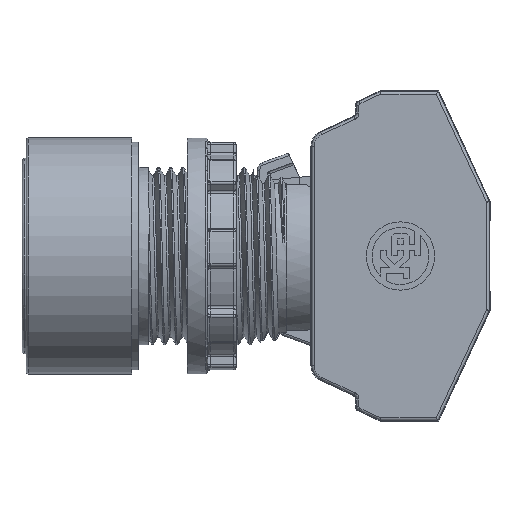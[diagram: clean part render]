
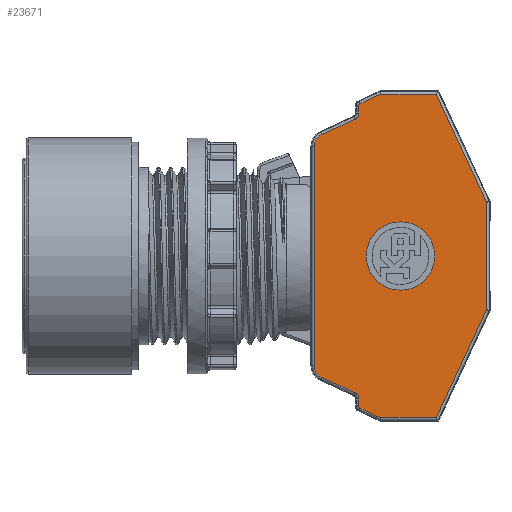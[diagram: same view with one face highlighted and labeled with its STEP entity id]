
A CAD part, front view. The second image highlights one B-rep face of the part: STEP entity #23671.
In plain terms, the highlighted planar face has unit normal (0, -1, 0) as drawn and (0, 0, 1) by its records, which use the part's own axes.
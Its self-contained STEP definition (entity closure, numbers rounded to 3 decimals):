
#18730=CARTESIAN_POINT('',(37.2,0.,14.8));
#18731=VERTEX_POINT('',#18730);
#18732=CARTESIAN_POINT('',(33.0,0.,14.8));
#18733=DIRECTION('',(0.0,0.0,-1.0));
#18734=DIRECTION('',(-1.0,0.0,0.0));
#18735=AXIS2_PLACEMENT_3D('',#18732,#18733,#18734);
#18736=CIRCLE('',#18735,4.2);
#18737=EDGE_CURVE('',#18731,#18731,#18736,.T.);
#22856=CARTESIAN_POINT('',(27.9,18.519,14.8));
#22857=VERTEX_POINT('',#22856);
#22865=CARTESIAN_POINT('',(28.015,18.7,14.8));
#22866=VERTEX_POINT('',#22865);
#22867=CARTESIAN_POINT('',(28.1,18.519,14.8));
#22868=DIRECTION('',(0.,0.,-1.0));
#22869=DIRECTION('',(-0.843,0.537,0.));
#22870=AXIS2_PLACEMENT_3D('',#22867,#22868,#22869);
#22871=CIRCLE('',#22870,0.2);
#22872=EDGE_CURVE('',#22857,#22866,#22871,.T.);
#22900=CARTESIAN_POINT('',(27.9,17.555,14.8));
#22901=VERTEX_POINT('',#22900);
#22909=CARTESIAN_POINT('',(27.9,17.555,14.8));
#22910=DIRECTION('',(0.0,1.0,0.0));
#22911=VECTOR('',#22910,0.964);
#22912=LINE('',#22909,#22911);
#22913=EDGE_CURVE('',#22901,#22857,#22912,.T.);
#22939=CARTESIAN_POINT('',(30.589,19.9,14.8));
#22940=VERTEX_POINT('',#22939);
#22941=CARTESIAN_POINT('',(28.015,18.7,14.8));
#22942=DIRECTION('',(0.906,0.423,0.));
#22943=VECTOR('',#22942,2.839);
#22944=LINE('',#22941,#22943);
#22945=EDGE_CURVE('',#22866,#22940,#22944,.T.);
#22964=CARTESIAN_POINT('',(27.438,16.83,14.8));
#22965=VERTEX_POINT('',#22964);
#22973=CARTESIAN_POINT('',(27.1,17.555,14.8));
#22974=DIRECTION('',(0.,0.,1.0));
#22975=DIRECTION('',(0.843,-0.537,0.));
#22976=AXIS2_PLACEMENT_3D('',#22973,#22974,#22975);
#22977=CIRCLE('',#22976,0.8);
#22978=EDGE_CURVE('',#22965,#22901,#22977,.T.);
#22996=CARTESIAN_POINT('',(37.403,19.9,14.8));
#22997=VERTEX_POINT('',#22996);
#22998=CARTESIAN_POINT('',(30.589,19.9,14.8));
#22999=DIRECTION('',(1.0,0.0,0.0));
#23000=VECTOR('',#22999,6.815);
#23001=LINE('',#22998,#23000);
#23002=EDGE_CURVE('',#22940,#22997,#23001,.T.);
#23030=CARTESIAN_POINT('',(23.324,14.911,14.8));
#23031=VERTEX_POINT('',#23030);
#23039=CARTESIAN_POINT('',(23.324,14.911,14.8));
#23040=DIRECTION('',(0.906,0.423,0.0));
#23041=VECTOR('',#23040,4.54);
#23042=LINE('',#23039,#23041);
#23043=EDGE_CURVE('',#23031,#22965,#23042,.T.);
#23060=CARTESIAN_POINT('',(43.6,6.611,14.8));
#23061=VERTEX_POINT('',#23060);
#23062=CARTESIAN_POINT('',(37.403,19.9,14.8));
#23063=DIRECTION('',(0.423,-0.906,0.));
#23064=VECTOR('',#23063,14.662);
#23065=LINE('',#23062,#23064);
#23066=EDGE_CURVE('',#22997,#23061,#23065,.T.);
#23092=CARTESIAN_POINT('',(22.4,13.461,14.8));
#23093=VERTEX_POINT('',#23092);
#23101=CARTESIAN_POINT('',(24.,13.461,14.8));
#23102=DIRECTION('',(0.,0.,-1.0));
#23103=DIRECTION('',(-0.843,0.537,0.));
#23104=AXIS2_PLACEMENT_3D('',#23101,#23102,#23103);
#23105=CIRCLE('',#23104,1.6);
#23106=EDGE_CURVE('',#23093,#23031,#23105,.T.);
#23124=CARTESIAN_POINT('',(43.6,-6.611,14.8));
#23125=VERTEX_POINT('',#23124);
#23126=CARTESIAN_POINT('',(43.6,6.611,14.8));
#23127=DIRECTION('',(0.0,-1.0,0.0));
#23128=VECTOR('',#23127,13.223);
#23129=LINE('',#23126,#23128);
#23130=EDGE_CURVE('',#23061,#23125,#23129,.T.);
#23156=CARTESIAN_POINT('',(22.4,-13.461,14.8));
#23157=VERTEX_POINT('',#23156);
#23165=CARTESIAN_POINT('',(22.4,-13.461,14.8));
#23166=DIRECTION('',(0.0,1.0,0.0));
#23167=VECTOR('',#23166,26.922);
#23168=LINE('',#23165,#23167);
#23169=EDGE_CURVE('',#23157,#23093,#23168,.T.);
#23181=CARTESIAN_POINT('',(37.403,-19.9,14.8));
#23182=VERTEX_POINT('',#23181);
#23183=CARTESIAN_POINT('',(43.6,-6.611,14.8));
#23184=DIRECTION('',(-0.423,-0.906,0.));
#23185=VECTOR('',#23184,14.662);
#23186=LINE('',#23183,#23185);
#23187=EDGE_CURVE('',#23125,#23182,#23186,.T.);
#23215=CARTESIAN_POINT('',(23.324,-14.911,14.8));
#23216=VERTEX_POINT('',#23215);
#23224=CARTESIAN_POINT('',(24.,-13.461,14.8));
#23225=DIRECTION('',(0.,0.,-1.0));
#23226=DIRECTION('',(-0.843,-0.537,0.));
#23227=AXIS2_PLACEMENT_3D('',#23224,#23225,#23226);
#23228=CIRCLE('',#23227,1.6);
#23229=EDGE_CURVE('',#23216,#23157,#23228,.T.);
#23247=CARTESIAN_POINT('',(30.589,-19.9,14.8));
#23248=VERTEX_POINT('',#23247);
#23249=CARTESIAN_POINT('',(37.403,-19.9,14.8));
#23250=DIRECTION('',(-1.0,0.0,0.0));
#23251=VECTOR('',#23250,6.815);
#23252=LINE('',#23249,#23251);
#23253=EDGE_CURVE('',#23182,#23248,#23252,.T.);
#23281=CARTESIAN_POINT('',(27.438,-16.83,14.8));
#23282=VERTEX_POINT('',#23281);
#23290=CARTESIAN_POINT('',(27.438,-16.83,14.8));
#23291=DIRECTION('',(-0.906,0.423,0.0));
#23292=VECTOR('',#23291,4.54);
#23293=LINE('',#23290,#23292);
#23294=EDGE_CURVE('',#23282,#23216,#23293,.T.);
#23311=CARTESIAN_POINT('',(28.015,-18.7,14.8));
#23312=VERTEX_POINT('',#23311);
#23329=CARTESIAN_POINT('',(30.589,-19.9,14.8));
#23330=DIRECTION('',(-0.906,0.423,0.0));
#23331=VECTOR('',#23330,2.839);
#23332=LINE('',#23329,#23331);
#23333=EDGE_CURVE('',#23248,#23312,#23332,.T.);
#23345=CARTESIAN_POINT('',(27.9,-17.555,14.8));
#23346=VERTEX_POINT('',#23345);
#23354=CARTESIAN_POINT('',(27.1,-17.555,14.8));
#23355=DIRECTION('',(0.,0.,1.0));
#23356=DIRECTION('',(0.843,0.537,0.));
#23357=AXIS2_PLACEMENT_3D('',#23354,#23355,#23356);
#23358=CIRCLE('',#23357,0.8);
#23359=EDGE_CURVE('',#23346,#23282,#23358,.T.);
#23395=CARTESIAN_POINT('',(27.9,-18.519,14.8));
#23396=VERTEX_POINT('',#23395);
#23414=CARTESIAN_POINT('',(28.1,-18.519,14.8));
#23415=DIRECTION('',(0.,0.,-1.0));
#23416=DIRECTION('',(-0.843,-0.537,0.));
#23417=AXIS2_PLACEMENT_3D('',#23414,#23415,#23416);
#23418=CIRCLE('',#23417,0.2);
#23419=EDGE_CURVE('',#23312,#23396,#23418,.T.);
#23437=CARTESIAN_POINT('',(27.9,-18.519,14.8));
#23438=DIRECTION('',(0.0,1.0,0.0));
#23439=VECTOR('',#23438,0.964);
#23440=LINE('',#23437,#23439);
#23441=EDGE_CURVE('',#23396,#23346,#23440,.T.);
#23643=CARTESIAN_POINT('',(32.411,0.,14.8));
#23644=DIRECTION('',(0.0,0.0,1.0));
#23645=DIRECTION('',(1.0,0.0,0.0));
#23646=AXIS2_PLACEMENT_3D('',#23643,#23644,#23645);
#23647=PLANE('',#23646);
#23648=ORIENTED_EDGE('',*,*,#22872,.F.);
#23649=ORIENTED_EDGE('',*,*,#22913,.F.);
#23650=ORIENTED_EDGE('',*,*,#22978,.F.);
#23651=ORIENTED_EDGE('',*,*,#23043,.F.);
#23652=ORIENTED_EDGE('',*,*,#23106,.F.);
#23653=ORIENTED_EDGE('',*,*,#23169,.F.);
#23654=ORIENTED_EDGE('',*,*,#23229,.F.);
#23655=ORIENTED_EDGE('',*,*,#23294,.F.);
#23656=ORIENTED_EDGE('',*,*,#23359,.F.);
#23657=ORIENTED_EDGE('',*,*,#23441,.F.);
#23658=ORIENTED_EDGE('',*,*,#23419,.F.);
#23659=ORIENTED_EDGE('',*,*,#23333,.F.);
#23660=ORIENTED_EDGE('',*,*,#23253,.F.);
#23661=ORIENTED_EDGE('',*,*,#23187,.F.);
#23662=ORIENTED_EDGE('',*,*,#23130,.F.);
#23663=ORIENTED_EDGE('',*,*,#23066,.F.);
#23664=ORIENTED_EDGE('',*,*,#23002,.F.);
#23665=ORIENTED_EDGE('',*,*,#22945,.F.);
#23666=EDGE_LOOP('',(#23648,#23649,#23650,#23651,#23652,#23653,#23654,#23655,#23656,#23657,#23658,#23659,#23660,#23661,#23662,#23663,#23664,#23665));
#23667=FACE_OUTER_BOUND('',#23666,.T.);
#23668=ORIENTED_EDGE('',*,*,#18737,.T.);
#23669=EDGE_LOOP('',(#23668));
#23670=FACE_BOUND('',#23669,.T.);
#23671=ADVANCED_FACE('',(#23667,#23670),#23647,.T.);
